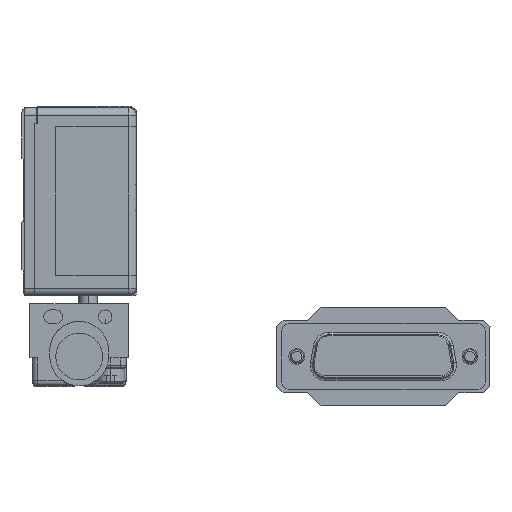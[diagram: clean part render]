
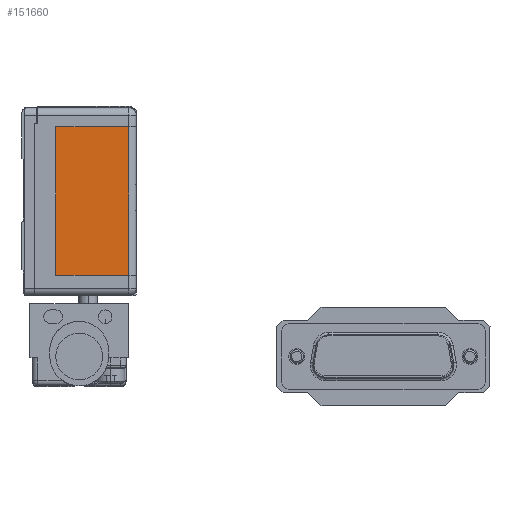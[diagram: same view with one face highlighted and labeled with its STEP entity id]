
A CAD part, left-side view. The second image highlights one B-rep face of the part: STEP entity #151660.
In plain terms, the highlighted planar face has unit normal (-1, 0, 0).
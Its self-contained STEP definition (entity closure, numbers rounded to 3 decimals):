
#109680=CARTESIAN_POINT('',(362.3,1.5,32.5));
#109690=VERTEX_POINT('',#109680);
#109850=CARTESIAN_POINT('',(362.3,1.5,4.));
#109860=VERTEX_POINT('',#109850);
#109890=CARTESIAN_POINT('',(362.3,1.5,36.5));
#109900=DIRECTION('',(0.,0.,-1.));
#109910=VECTOR('',#109900,1.);
#109920=LINE('',#109890,#109910);
#109930=EDGE_CURVE('',#109690,#109860,#109920,.T.);
#119420=CARTESIAN_POINT('',(362.3,15.5,32.5));
#119430=DIRECTION('',(0.,-1.,0.));
#119440=VECTOR('',#119430,1.);
#119450=LINE('',#119420,#119440);
#119460=CARTESIAN_POINT('',(362.3,15.5,32.5));
#119470=VERTEX_POINT('',#119460);
#119480=EDGE_CURVE('',#119470,#109690,#119450,.T.);
#136760=CARTESIAN_POINT('',(362.3,15.5,4.));
#136770=VERTEX_POINT('',#136760);
#136800=CARTESIAN_POINT('',(362.3,0.,4.)
);
#136810=DIRECTION('',(0.,1.,0.));
#136820=VECTOR('',#136810,1.);
#136830=LINE('',#136800,#136820);
#136840=EDGE_CURVE('',#109860,#136770,#136830,.T.);
#151330=CARTESIAN_POINT('',(362.3,15.5,4.));
#151340=DIRECTION('',(0.,0.,1.));
#151350=VECTOR('',#151340,1.);
#151360=LINE('',#151330,#151350);
#151370=EDGE_CURVE('',#136770,#119470,#151360,.T.);
#151550=CARTESIAN_POINT('',(362.3,3.267,5.907));
#151560=DIRECTION('',(-1.,0.,0.));
#151570=DIRECTION('',(0.,1.,0.));
#151580=AXIS2_PLACEMENT_3D('',#151550,#151560,#151570);
#151590=PLANE('',#151580);
#151600=ORIENTED_EDGE('',*,*,#136840,.F.);
#151610=ORIENTED_EDGE('',*,*,#151370,.F.);
#151620=ORIENTED_EDGE('',*,*,#119480,.F.);
#151630=ORIENTED_EDGE('',*,*,#109930,.F.);
#151640=EDGE_LOOP('',(#151630,#151620,#151610,#151600));
#151650=FACE_OUTER_BOUND('',#151640,.T.);
#151660=ADVANCED_FACE('',(#151650),#151590,.T.);
